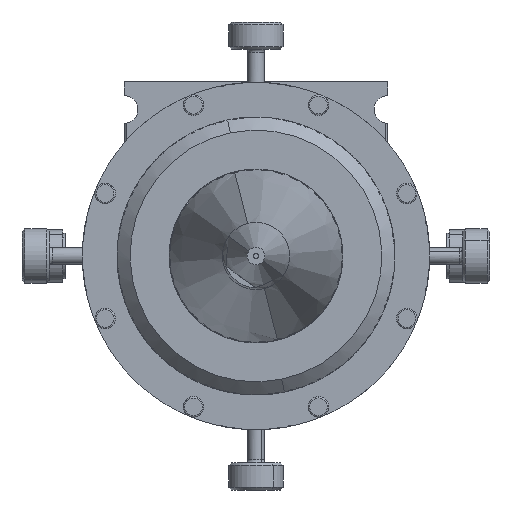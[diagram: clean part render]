
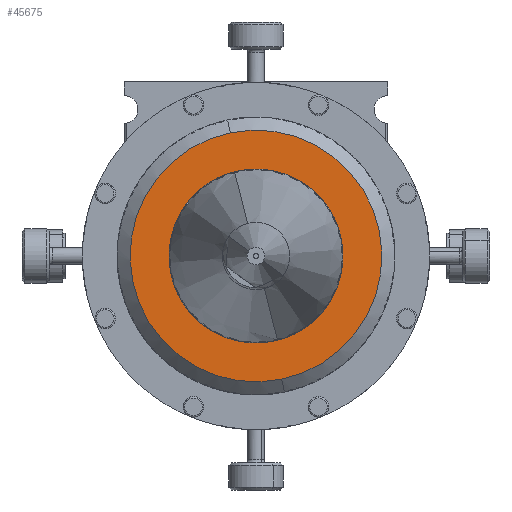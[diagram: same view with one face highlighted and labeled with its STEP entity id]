
A CAD part, front view. The second image highlights one B-rep face of the part: STEP entity #45675.
In plain terms, the highlighted planar face has unit normal (0, -1, 0).
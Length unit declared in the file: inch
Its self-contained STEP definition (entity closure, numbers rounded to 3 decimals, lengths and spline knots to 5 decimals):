
#1431 = CIRCLE ( 'NONE', #69154, 0.625 ) ;
#2749 = VERTEX_POINT ( 'NONE', #15129 ) ;
#5070 = FACE_OUTER_BOUND ( 'NONE', #40181, .T. ) ;
#7092 = VERTEX_POINT ( 'NONE', #9016 ) ;
#8933 = CARTESIAN_POINT ( 'NONE',  ( 0.18511, 3.43983, -0.88714 ) ) ;
#9016 = CARTESIAN_POINT ( 'NONE',  ( -0.18511, 3.43983, 0.88714 ) ) ;
#9979 = AXIS2_PLACEMENT_3D ( 'NONE', #35687, #18756, #24231 ) ;
#11111 = EDGE_CURVE ( 'Defeatured_0_966+Defeatured_0_967+Defeatured_0_967+Defeatured_0_967', #7092, #28614, #51246, .T. ) ;
#14853 = DIRECTION ( 'NONE',  ( 0., -1., 0. ) ) ;
#15129 = CARTESIAN_POINT ( 'NONE',  ( 0.59756, 3.43983, 0.18315 ) ) ;
#15436 = DIRECTION ( 'NONE',  ( 1., 0., 0. ) ) ;
#15837 = VERTEX_POINT ( 'NONE', #47092 ) ;
#16168 = DIRECTION ( 'NONE',  ( 1., 0., 0. ) ) ;
#16710 = EDGE_CURVE ( 'Defeatured_0_966+Defeatured_0_967+Defeatured_0_967+Defeatured_0_967', #28614, #7092, #20721, .T. ) ;
#16941 = ORIENTED_EDGE ( 'NONE', *, *, #16710, .T. ) ;
#18756 = DIRECTION ( 'NONE',  ( 0., -1., 0. ) ) ;
#20415 = CARTESIAN_POINT ( 'NONE',  ( 0.88714, 3.43983, 0.18511 ) ) ;
#20721 = CIRCLE ( 'NONE', #38473, 0.90625 ) ;
#21042 = AXIS2_PLACEMENT_3D ( 'NONE', #48080, #39067, #15436 ) ;
#24231 = DIRECTION ( 'NONE',  ( 0.204, 0., -0.979 ) ) ;
#27852 = ORIENTED_EDGE ( 'NONE', *, *, #11111, .T. ) ;
#28614 = VERTEX_POINT ( 'NONE', #8933 ) ;
#30883 = DIRECTION ( 'NONE',  ( 0.204, 0., -0.979 ) ) ;
#31105 = PLANE ( 'NONE',  #49570 ) ;
#35687 = CARTESIAN_POINT ( 'NONE',  ( 0., 3.43983, 0. ) ) ;
#36634 = DIRECTION ( 'NONE',  ( 0.204, 0., -0.979 ) ) ;
#38473 = AXIS2_PLACEMENT_3D ( 'NONE', #58755, #47766, #30883 ) ;
#39067 = DIRECTION ( 'NONE',  ( 0., -1., 0. ) ) ;
#40181 = EDGE_LOOP ( 'NONE', ( #27852, #16941 ) ) ;
#43230 = EDGE_LOOP ( 'NONE', ( #59882, #49291 ) ) ;
#45675 = ADVANCED_FACE ( 'Defeatured_0_966', ( #47717, #5070 ), #31105, .T. ) ;
#47092 = CARTESIAN_POINT ( 'NONE',  ( -0.59756, 3.43983, -0.18315 ) ) ;
#47717 = FACE_BOUND ( 'NONE', #43230, .T. ) ;
#47766 = DIRECTION ( 'NONE',  ( 0., -1., 0. ) ) ;
#47979 = EDGE_CURVE ( 'Defeatured_0_1839+Defeatured_0_966+Defeatured_0_966+Defeatured_0_966', #2749, #15837, #61977, .T. ) ;
#48080 = CARTESIAN_POINT ( 'NONE',  ( 0., 3.43983, 0. ) ) ;
#48812 = DIRECTION ( 'NONE',  ( 0., -1., 0. ) ) ;
#49291 = ORIENTED_EDGE ( 'NONE', *, *, #47979, .F. ) ;
#49570 = AXIS2_PLACEMENT_3D ( 'NONE', #20415, #14853, #36634 ) ;
#51246 = CIRCLE ( 'NONE', #9979, 0.90625 ) ;
#55003 = CARTESIAN_POINT ( 'NONE',  ( 0., 3.43983, 0. ) ) ;
#58755 = CARTESIAN_POINT ( 'NONE',  ( 0., 3.43983, 0. ) ) ;
#59882 = ORIENTED_EDGE ( 'NONE', *, *, #63027, .F. ) ;
#61977 = CIRCLE ( 'NONE', #21042, 0.625 ) ;
#63027 = EDGE_CURVE ( 'Defeatured_0_1839+Defeatured_0_966+Defeatured_0_966+Defeatured_0_966', #15837, #2749, #1431, .T. ) ;
#69154 = AXIS2_PLACEMENT_3D ( 'NONE', #55003, #48812, #16168 ) ;
